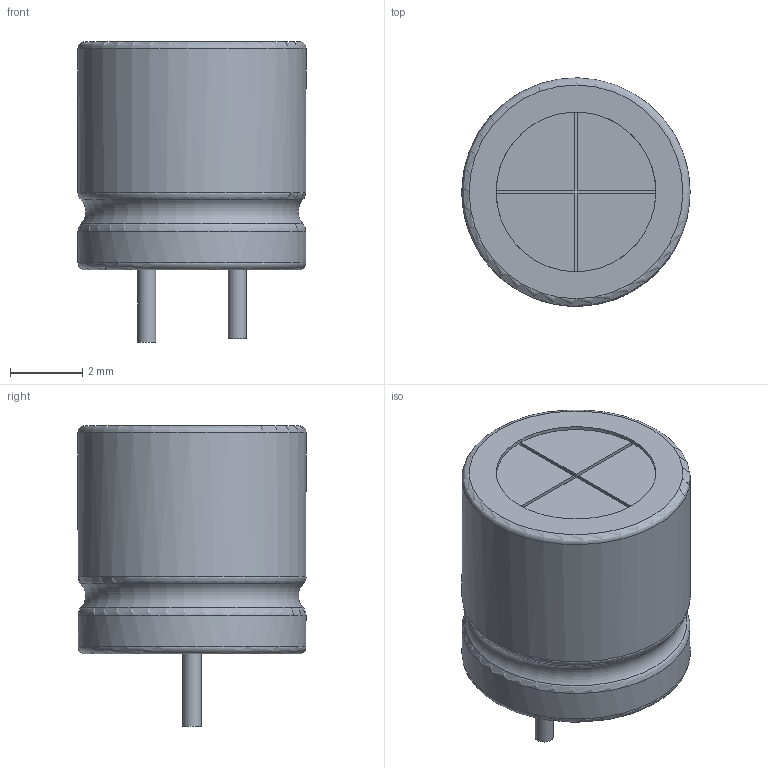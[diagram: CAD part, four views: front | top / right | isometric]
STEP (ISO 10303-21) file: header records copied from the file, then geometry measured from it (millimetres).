
FILE_DESCRIPTION(/* description */ ('STEP AP242 Edition 2','CAx-IF Rec.Pracs.---Representation and Presentation of Product Manufacturing Information (PMI)---4.0---2014-10-13','CAx-IF Rec.Pracs.---3D Tessellated Geometry---0.4---2014-09-14','2;1','CAx-IF Rec.Pracs.---User Defined Attributes---1.5---2016-08-15'),/* implementation_level */ '2;1');
FILE_NAME(/* name */ 'Part Studio 1 - Surface 12',/* time_stamp */ '2026-11-25T23:28:51Z',/* author */ (''),/* organization */ (''),/* preprocessor_version */ 'ST-DEVELOPER v20',/* originating_system */ 'ONSHAPE BY PTC INC, 1.224',/* authorisation */ ' ');
FILE_SCHEMA (('AP242_MANAGED_MODEL_BASED_3D_ENGINEERING_MIM_LF { 1 0 10303 442 3 1 4 }'));
Length unit declared in the file: metre
Products named in the file (1): CP_Radial_D63mm_P250mm
Bounding box: 6.3 x 6.3 x 8.3 mm (x, y, z)
Volume: 188.3 mm3; surface area: 229.5 mm2
Topology: 1 solids, 2 shells, 34 faces, 76 edges, 50 vertices
Faces by surface type: plane 20, cylinder 7, torus 7
Full cylindrical faces by diameter (mm): 0.5 x2, 4.41 x3, 6.3 x2
Entity records: 981 total; most frequent: CARTESIAN_POINT 243, DIRECTION 136, ORIENTED_EDGE 126, EDGE_CURVE 63, AXIS2_PLACEMENT_3D 54, EDGE_LOOP 48, FACE_BOUND 48, VERTEX_POINT 47
